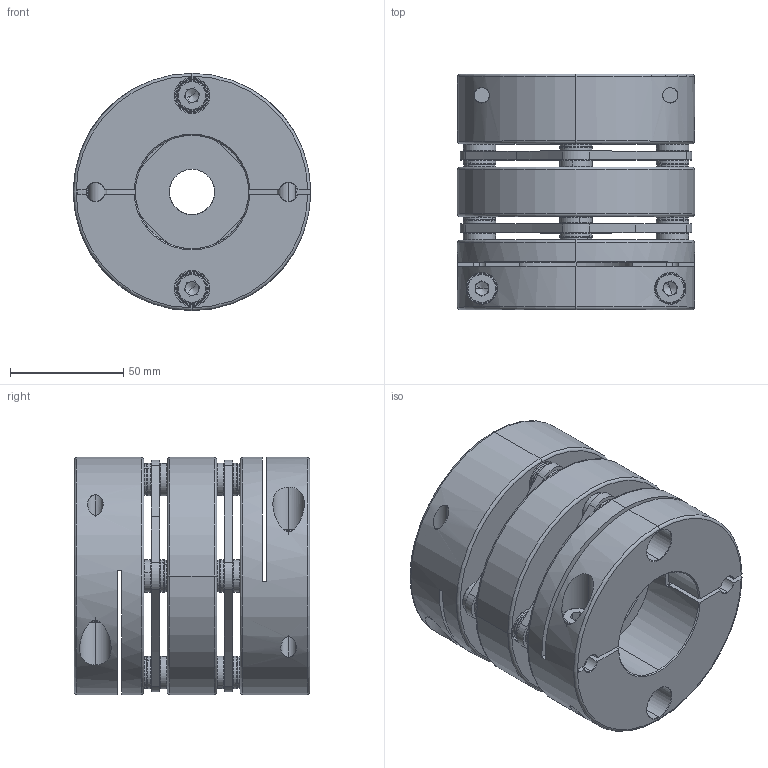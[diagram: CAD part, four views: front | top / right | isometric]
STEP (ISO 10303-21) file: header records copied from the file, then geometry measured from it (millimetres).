
FILE_DESCRIPTION (( 'STEP AP203' ), '1' );
FILE_NAME ('SDW-100C-20X50_203.STEP', '2013-01-07T04:44:58', ( 'MYCOM' ), ( '' ), 'SwSTEP 2.0', 'SolidWorks 2012', '' );
FILE_SCHEMA (( 'CONFIG_CONTROL_DESIGN' ));
Length unit declared in the file: millimetre
Products named in the file (1): SDW-100C-20X50_203
Bounding box: 104.5 x 103.8 x 104.5 mm (x, y, z)
Volume: 582278.1 mm3; surface area: 135556.7 mm2
Topology: 1 solids, 27 shells, 966 faces, 2286 edges, 1374 vertices
Faces by surface type: cylinder 306, plane 272, torus 230, cone 158
Entity records: 29133 total; most frequent: CARTESIAN_POINT 5878, DIRECTION 5444, ORIENTED_EDGE 4524, AXIS2_PLACEMENT_3D 2288, EDGE_CURVE 2262, VERTEX_POINT 1374, CIRCLE 1321, EDGE_LOOP 1084
